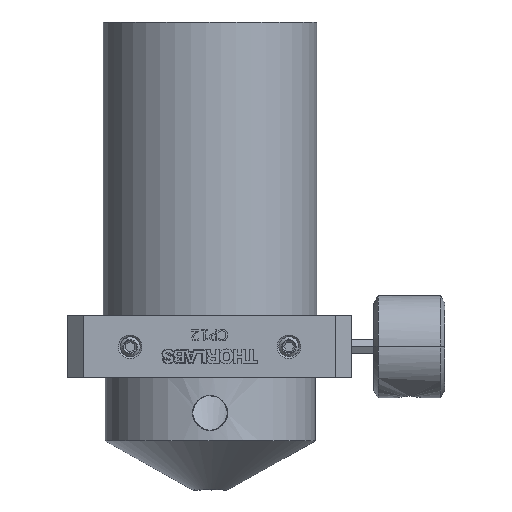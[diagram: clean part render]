
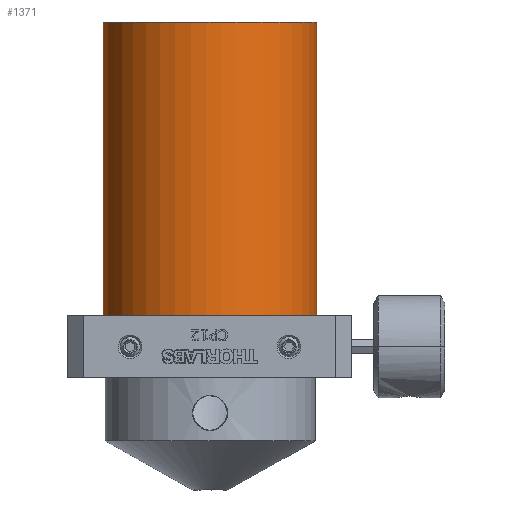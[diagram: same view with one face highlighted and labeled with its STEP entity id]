
A CAD part, front view. The second image highlights one B-rep face of the part: STEP entity #1371.
In plain terms, the highlighted free-form (B-spline) face has degree [1, 2] with [2, 9] control points.
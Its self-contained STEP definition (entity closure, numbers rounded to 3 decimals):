
#1371=ADVANCED_FACE('',(#2303),#31516,.T.);
#2303=FACE_OUTER_BOUND('',#3314,.T.);
#3314=EDGE_LOOP('',(#7915,#7916,#7917,#7918));
#7915=ORIENTED_EDGE('',*,*,#28748,.F.);
#7916=ORIENTED_EDGE('',*,*,#28752,.T.);
#7917=ORIENTED_EDGE('',*,*,#28753,.T.);
#7918=ORIENTED_EDGE('',*,*,#28754,.T.);
#12633=PCURVE('',#31314,#17355);
#12637=PCURVE('',#31516,#17359);
#12638=PCURVE('',#31516,#17360);
#12639=PCURVE('',#31516,#17361);
#12640=PCURVE('',#31516,#17362);
#12642=PCURVE('',#31315,#17364);
#12649=PCURVE('',#31518,#17371);
#12651=PCURVE('',#31518,#17373);
#17355=DEFINITIONAL_REPRESENTATION('',(#29253),#69736);
#17359=DEFINITIONAL_REPRESENTATION('',(#23937),#69736);
#17360=DEFINITIONAL_REPRESENTATION('',(#23939),#69736);
#17361=DEFINITIONAL_REPRESENTATION('',(#23940),#69736);
#17362=DEFINITIONAL_REPRESENTATION('',(#23941),#69736);
#17364=DEFINITIONAL_REPRESENTATION('',(#29262),#69736);
#17371=DEFINITIONAL_REPRESENTATION('',(#23949),#69736);
#17373=DEFINITIONAL_REPRESENTATION('',(#23951),#69736);
#23937=B_SPLINE_CURVE_WITH_KNOTS('',1,(#67365,#67366),.UNSPECIFIED.,.F.,
 .F.,(2,2),(-5.655,-2.827),.UNSPECIFIED.);
#23938=B_SPLINE_CURVE_WITH_KNOTS('',1,(#67367,#67368),.UNSPECIFIED.,.F.,
 .F.,(2,2),(0.,2.),.UNSPECIFIED.);
#23939=B_SPLINE_CURVE_WITH_KNOTS('',1,(#67369,#67370),.UNSPECIFIED.,.F.,
 .F.,(2,2),(0.,2.),.UNSPECIFIED.);
#23940=B_SPLINE_CURVE_WITH_KNOTS('',1,(#67376,#67377),.UNSPECIFIED.,.F.,
 .F.,(2,2),(-5.655,-2.827),.UNSPECIFIED.);
#23941=B_SPLINE_CURVE_WITH_KNOTS('',1,(#67380,#67381),.UNSPECIFIED.,.F.,
 .F.,(2,2),(-2.,0.),.UNSPECIFIED.);
#23949=B_SPLINE_CURVE_WITH_KNOTS('',1,(#68021,#68022),.UNSPECIFIED.,.F.,
 .F.,(2,2),(-2.,0.),.UNSPECIFIED.);
#23951=B_SPLINE_CURVE_WITH_KNOTS('',1,(#68025,#68026),.UNSPECIFIED.,.F.,
 .F.,(2,2),(0.,2.),.UNSPECIFIED.);
#26386=SURFACE_CURVE('',#29252,(#12633,#12637),.PCURVE_S1.);
#26390=SURFACE_CURVE('',#23938,(#12638,#12651),.PCURVE_S1.);
#26391=SURFACE_CURVE('',#29258,(#12639,#12642),.PCURVE_S1.);
#26392=SURFACE_CURVE('',#29259,(#12640,#12649),.PCURVE_S1.);
#28748=EDGE_CURVE('',#30794,#30798,#26386,.T.);
#28752=EDGE_CURVE('',#30794,#30795,#26390,.T.);
#28753=EDGE_CURVE('',#30795,#30799,#26391,.T.);
#28754=EDGE_CURVE('',#30799,#30798,#26392,.T.);
#29252=(
BOUNDED_CURVE()
B_SPLINE_CURVE(2,(#66733,#66734,#66735,#66736,#66737),.UNSPECIFIED.,.F.,
 .F.)
B_SPLINE_CURVE_WITH_KNOTS((3,2,3),(-5.655,-4.241,-2.827),
 .UNSPECIFIED.)
CURVE()
GEOMETRIC_REPRESENTATION_ITEM()
RATIONAL_B_SPLINE_CURVE((1.,0.707,1.,0.707,1.))
REPRESENTATION_ITEM('')
);
#29253=(
BOUNDED_CURVE()
B_SPLINE_CURVE(2,(#66738,#66739,#66740,#66741,#66742),.UNSPECIFIED.,.F.,
 .F.)
B_SPLINE_CURVE_WITH_KNOTS((3,2,3),(-5.655,-4.241,-2.827),
 .UNSPECIFIED.)
CURVE()
GEOMETRIC_REPRESENTATION_ITEM()
RATIONAL_B_SPLINE_CURVE((1.,0.707,1.,0.707,1.))
REPRESENTATION_ITEM('')
);
#29258=(
BOUNDED_CURVE()
B_SPLINE_CURVE(2,(#67371,#67372,#67373,#67374,#67375),.UNSPECIFIED.,.F.,
 .F.)
B_SPLINE_CURVE_WITH_KNOTS((3,2,3),(-5.655,-4.241,-2.827),
 .UNSPECIFIED.)
CURVE()
GEOMETRIC_REPRESENTATION_ITEM()
RATIONAL_B_SPLINE_CURVE((1.,0.707,1.,0.707,1.))
REPRESENTATION_ITEM('')
);
#29259=(
BOUNDED_CURVE()
B_SPLINE_CURVE(1,(#67378,#67379),.UNSPECIFIED.,.F.,.F.)
B_SPLINE_CURVE_WITH_KNOTS((2,2),(-2.,0.),.UNSPECIFIED.)
CURVE()
GEOMETRIC_REPRESENTATION_ITEM()
RATIONAL_B_SPLINE_CURVE((1.,1.))
REPRESENTATION_ITEM('')
);
#29262=(
BOUNDED_CURVE()
B_SPLINE_CURVE(2,(#67392,#67393,#67394,#67395,#67396),.UNSPECIFIED.,.F.,
 .F.)
B_SPLINE_CURVE_WITH_KNOTS((3,2,3),(-5.655,-4.241,-2.827),
 .UNSPECIFIED.)
CURVE()
GEOMETRIC_REPRESENTATION_ITEM()
RATIONAL_B_SPLINE_CURVE((1.,0.707,1.,0.707,1.))
REPRESENTATION_ITEM('')
);
#30794=VERTEX_POINT('',#66725);
#30795=VERTEX_POINT('',#66726);
#30798=VERTEX_POINT('',#66729);
#30799=VERTEX_POINT('',#66730);
#31314=PLANE('',#32040);
#31315=PLANE('',#32041);
#31516=(
BOUNDED_SURFACE()
B_SPLINE_SURFACE(1,2,((#66652,#66653,#66654,#66655,#66656,#66657,#66658,
#66659,#66660),(#66661,#66662,#66663,#66664,#66665,#66666,#66667,#66668,
#66669)),.UNSPECIFIED.,.F.,.F.,.F.)
B_SPLINE_SURFACE_WITH_KNOTS((2,2),(3,2,2,2,3),(0.,2.),(-5.655,
-4.241,-2.827,-1.414,0.),.UNSPECIFIED.)
GEOMETRIC_REPRESENTATION_ITEM()
RATIONAL_B_SPLINE_SURFACE(((1.,0.707,1.,0.707,1.,
0.707,1.,0.707,1.),(1.,0.707,1.,0.707,
1.,0.707,1.,0.707,1.)))
REPRESENTATION_ITEM('')
SURFACE()
);
#31518=(
BOUNDED_SURFACE()
B_SPLINE_SURFACE(1,2,((#66689,#66690,#66691,#66692,#66693,#66694,#66695,
#66696,#66697),(#66698,#66699,#66700,#66701,#66702,#66703,#66704,#66705,
#66706)),.UNSPECIFIED.,.F.,.F.,.F.)
B_SPLINE_SURFACE_WITH_KNOTS((2,2),(3,2,2,2,3),(0.,2.),(-5.655,
-4.241,-2.827,-1.414,0.),.UNSPECIFIED.)
GEOMETRIC_REPRESENTATION_ITEM()
RATIONAL_B_SPLINE_SURFACE(((1.,0.707,1.,0.707,1.,
0.707,1.,0.707,1.),(1.,0.707,1.,0.707,
1.,0.707,1.,0.707,1.)))
REPRESENTATION_ITEM('')
SURFACE()
);
#32040=AXIS2_PLACEMENT_3D('',#66651,#32519,$);
#32041=AXIS2_PLACEMENT_3D('',#66670,#32520,$);
#32519=DIRECTION('',(0.,0.,1.));
#32520=DIRECTION('',(0.,0.,-1.));
#66651=CARTESIAN_POINT('',(-452.755,-30.775,24.8));
#66652=CARTESIAN_POINT('',(-483.235,-15.535,24.8));
#66653=CARTESIAN_POINT('',(-483.235,-30.775,24.8));
#66654=CARTESIAN_POINT('',(-467.995,-30.775,24.8));
#66655=CARTESIAN_POINT('',(-452.755,-30.775,24.8));
#66656=CARTESIAN_POINT('',(-452.755,-15.535,24.8));
#66657=CARTESIAN_POINT('',(-452.755,-0.295,24.8));
#66658=CARTESIAN_POINT('',(-467.995,-0.295,24.8));
#66659=CARTESIAN_POINT('',(-483.235,-0.295,24.8));
#66660=CARTESIAN_POINT('',(-483.235,-15.535,24.8));
#66661=CARTESIAN_POINT('',(-483.235,-15.535,-26.));
#66662=CARTESIAN_POINT('',(-483.235,-30.775,-26.));
#66663=CARTESIAN_POINT('',(-467.995,-30.775,-26.));
#66664=CARTESIAN_POINT('',(-452.755,-30.775,-26.));
#66665=CARTESIAN_POINT('',(-452.755,-15.535,-26.));
#66666=CARTESIAN_POINT('',(-452.755,-0.295,-26.));
#66667=CARTESIAN_POINT('',(-467.995,-0.295,-26.));
#66668=CARTESIAN_POINT('',(-483.235,-0.295,-26.));
#66669=CARTESIAN_POINT('',(-483.235,-15.535,-26.));
#66670=CARTESIAN_POINT('',(-452.755,-30.775,-26.));
#66689=CARTESIAN_POINT('',(-483.235,-15.535,24.8));
#66690=CARTESIAN_POINT('',(-483.235,-30.775,24.8));
#66691=CARTESIAN_POINT('',(-467.995,-30.775,24.8));
#66692=CARTESIAN_POINT('',(-452.755,-30.775,24.8));
#66693=CARTESIAN_POINT('',(-452.755,-15.535,24.8));
#66694=CARTESIAN_POINT('',(-452.755,-0.295,24.8));
#66695=CARTESIAN_POINT('',(-467.995,-0.295,24.8));
#66696=CARTESIAN_POINT('',(-483.235,-0.295,24.8));
#66697=CARTESIAN_POINT('',(-483.235,-15.535,24.8));
#66698=CARTESIAN_POINT('',(-483.235,-15.535,-26.));
#66699=CARTESIAN_POINT('',(-483.235,-30.775,-26.));
#66700=CARTESIAN_POINT('',(-467.995,-30.775,-26.));
#66701=CARTESIAN_POINT('',(-452.755,-30.775,-26.));
#66702=CARTESIAN_POINT('',(-452.755,-15.535,-26.));
#66703=CARTESIAN_POINT('',(-452.755,-0.295,-26.));
#66704=CARTESIAN_POINT('',(-467.995,-0.295,-26.));
#66705=CARTESIAN_POINT('',(-483.235,-0.295,-26.));
#66706=CARTESIAN_POINT('',(-483.235,-15.535,-26.));
#66725=CARTESIAN_POINT('',(-483.235,-15.535,24.8));
#66726=CARTESIAN_POINT('',(-483.235,-15.535,-26.));
#66729=CARTESIAN_POINT('',(-452.755,-15.535,24.8));
#66730=CARTESIAN_POINT('',(-452.755,-15.535,-26.));
#66733=CARTESIAN_POINT('',(-483.235,-15.535,24.8));
#66734=CARTESIAN_POINT('',(-483.235,-30.775,24.8));
#66735=CARTESIAN_POINT('',(-467.995,-30.775,24.8));
#66736=CARTESIAN_POINT('',(-452.755,-30.775,24.8));
#66737=CARTESIAN_POINT('',(-452.755,-15.535,24.8));
#66738=CARTESIAN_POINT('',(0.,0.));
#66739=CARTESIAN_POINT('',(-0.9,0.));
#66740=CARTESIAN_POINT('',(-0.9,-0.9));
#66741=CARTESIAN_POINT('',(-0.9,-1.8));
#66742=CARTESIAN_POINT('',(0.,-1.8));
#67365=CARTESIAN_POINT('',(0.,-5.655));
#67366=CARTESIAN_POINT('',(0.,-2.827));
#67367=CARTESIAN_POINT('',(-483.235,-15.535,24.8));
#67368=CARTESIAN_POINT('',(-483.235,-15.535,-26.));
#67369=CARTESIAN_POINT('',(0.,-5.655));
#67370=CARTESIAN_POINT('',(2.,-5.655));
#67371=CARTESIAN_POINT('',(-483.235,-15.535,-26.));
#67372=CARTESIAN_POINT('',(-483.235,-30.775,-26.));
#67373=CARTESIAN_POINT('',(-467.995,-30.775,-26.));
#67374=CARTESIAN_POINT('',(-452.755,-30.775,-26.));
#67375=CARTESIAN_POINT('',(-452.755,-15.535,-26.));
#67376=CARTESIAN_POINT('',(2.,-5.655));
#67377=CARTESIAN_POINT('',(2.,-2.827));
#67378=CARTESIAN_POINT('',(-452.755,-15.535,-26.));
#67379=CARTESIAN_POINT('',(-452.755,-15.535,24.8));
#67380=CARTESIAN_POINT('',(2.,-2.827));
#67381=CARTESIAN_POINT('',(0.,-2.827));
#67392=CARTESIAN_POINT('',(0.,0.));
#67393=CARTESIAN_POINT('',(0.,-0.9));
#67394=CARTESIAN_POINT('',(-0.9,-0.9));
#67395=CARTESIAN_POINT('',(-1.8,-0.9));
#67396=CARTESIAN_POINT('',(-1.8,0.));
#68021=CARTESIAN_POINT('',(2.,-2.827));
#68022=CARTESIAN_POINT('',(0.,-2.827));
#68025=CARTESIAN_POINT('',(0.,0.));
#68026=CARTESIAN_POINT('',(2.,0.));
#69736=(
GEOMETRIC_REPRESENTATION_CONTEXT(2)
PARAMETRIC_REPRESENTATION_CONTEXT()
REPRESENTATION_CONTEXT('pspace','')
);
